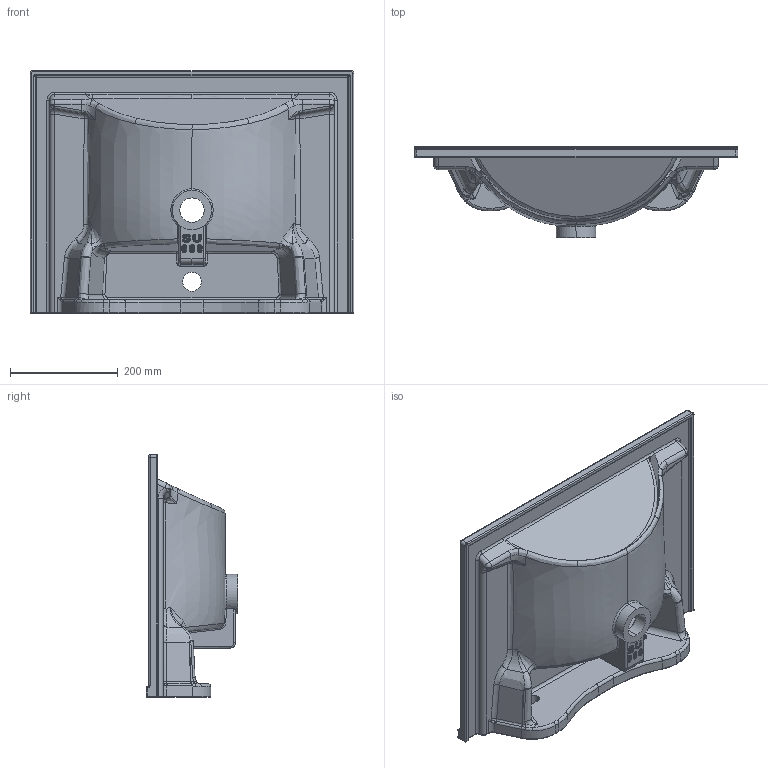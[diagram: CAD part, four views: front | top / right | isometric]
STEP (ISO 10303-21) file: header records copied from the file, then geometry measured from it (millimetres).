
FILE_DESCRIPTION (( 'STEP AP203' ), '1' );
FILE_NAME ('SU060.STEP', '2022-04-06T08:44:12', ( '' ), ( '' ), 'SwSTEP 2.0', 'SolidWorks 2021', '' );
FILE_SCHEMA (( 'CONFIG_CONTROL_DESIGN' ));
Products named in the file (1): SU060
Bounding box: 600 x 170.53 x 450 mm (x, y, z)
Volume: 6640341.2 mm3; surface area: 854293.7 mm2
Topology: 2 solids, 2 shells, 615 faces, 1474 edges, 841 vertices
Faces by surface type: bspline 324, cylinder 136, plane 75, torus 52, sphere 24, cone 4
Entity records: 63927 total; most frequent: CARTESIAN_POINT 52148, ORIENTED_EDGE 2882, DIRECTION 1809, EDGE_CURVE 1441, VERTEX_POINT 838, AXIS2_PLACEMENT_3D 737, EDGE_LOOP 633, B_SPLINE_CURVE_WITH_KNOTS 629
